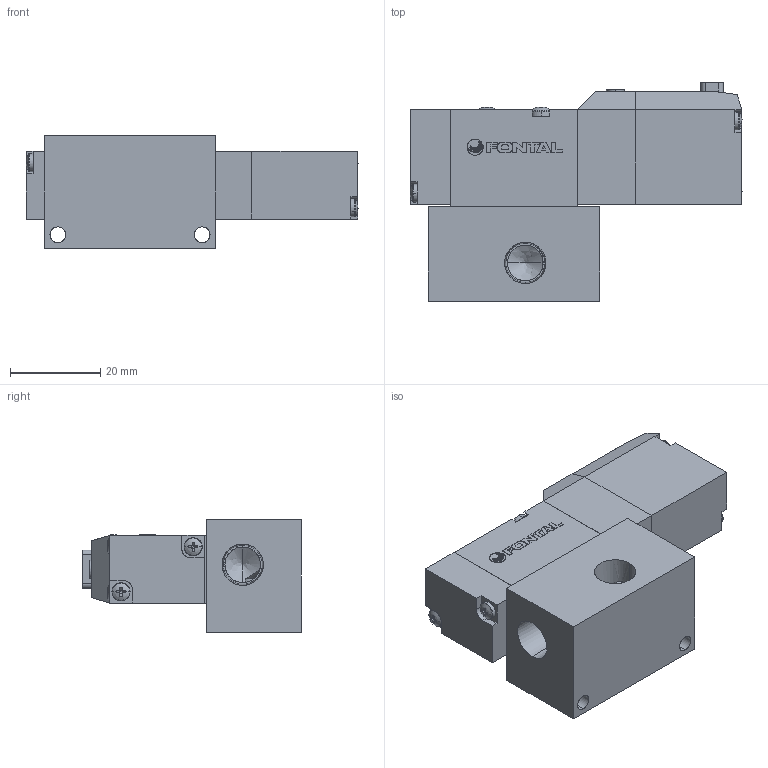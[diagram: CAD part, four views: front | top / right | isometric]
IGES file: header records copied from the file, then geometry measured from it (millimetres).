
Start section: SolidWorks IGES file using analytic representation for surfaces
Global section: file name: D:\Custom\3D繪製\PC\PC5\PCS245#-01-#-U-#.IGS,1; native system: 5HSolidWorks 2014; preprocessor: SolidWorks 2014; author: Chieh_Lu; date: 150729.232346; units: millimetre
Bounding box: 73.64 x 48.5 x 25 mm (x, y, z)
Surface area: 16697 mm2 (no closed solid volume)
Topology: 0 solids, 0 shells, 493 faces, 4780 edges, 4758 vertices
Faces by surface type: bspline 300, revolution 193
